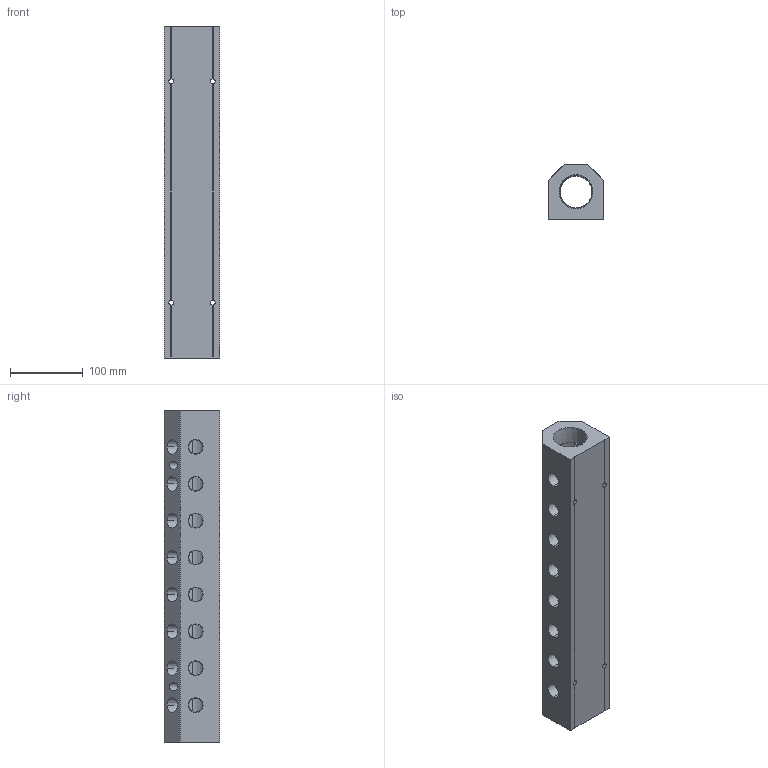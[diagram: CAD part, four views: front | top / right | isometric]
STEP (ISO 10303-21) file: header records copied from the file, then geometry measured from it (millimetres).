
FILE_DESCRIPTION (( 'STEP AP214' ), '1' );
FILE_NAME ('ALM8AB-N8N24-457B.step', '2022-02-07T09:29:23', ( '' ), ( '' ), 'SwSTEP 2.0', 'SolidWorks 2020', '' );
FILE_SCHEMA (( 'AUTOMOTIVE_DESIGN' ));
Length unit declared in the file: millimetre
Products named in the file (1): ALM8AB-N8N24-457B
Bounding box: 76.2 x 76.2 x 457 mm (x, y, z)
Volume: 1619282.4 mm3; surface area: 211272.1 mm2
Topology: 1 solids, 1 shells, 344 faces, 931 edges, 618 vertices
Faces by surface type: plane 219, bspline 71, cone 36, cylinder 18
Entity records: 19612 total; most frequent: CARTESIAN_POINT 8189, ORIENTED_EDGE 1862, DIRECTION 1341, EDGE_CURVE 931, VECTOR 657, LINE 657, VERTEX_POINT 618, EDGE_LOOP 415
